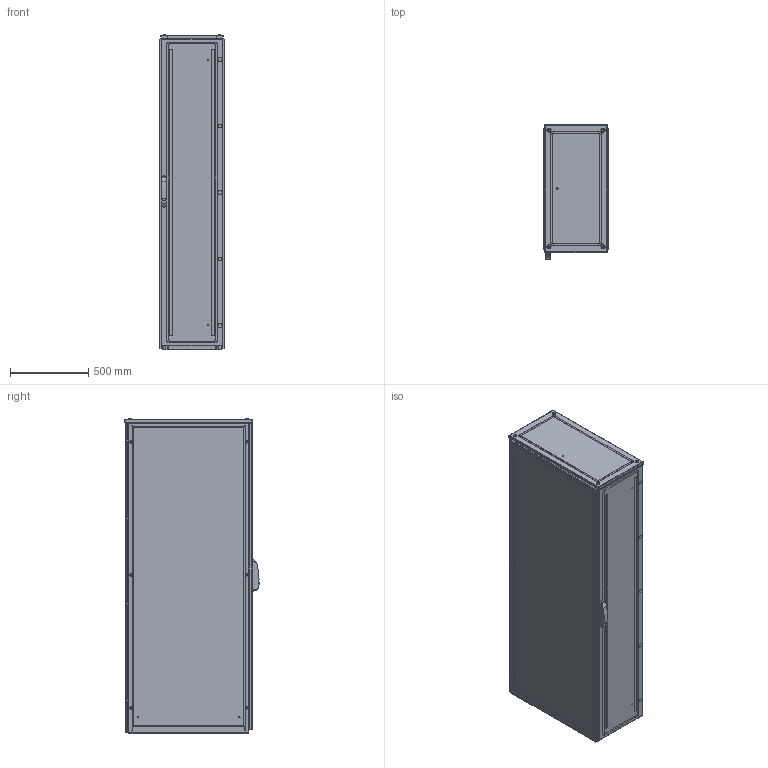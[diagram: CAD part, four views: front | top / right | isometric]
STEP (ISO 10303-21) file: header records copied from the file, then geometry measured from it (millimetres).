
FILE_DESCRIPTION(/* description */ ('STEP AP214'),/* implementation_level */ '2;1');
FILE_NAME(/* name */ 'ENUX042008PR-LOD350',/* time_stamp */ '2025-08-04T14:32:04+02:00',/* author */ ('License CC BY-ND 4.0'),/* organization */ ('CADENAS'),/* preprocessor_version */ 'ST-DEVELOPER v19.3',/* originating_system */ 'PARTsolutions',/* authorisation */ ' ');
FILE_SCHEMA (('INTEGRATED_CNC_SCHEMA','PROCESS_PLANNING_SCHEMA','AP242_MANAGED_MODEL_BASED_3D_ENGINEERING_MIM_LF { 1 0 10303 442 3 1 4 }','AUTOMOTIVE_DESIGN {1 0 10303 214 3 1 1}'));
Length unit declared in the file: millimetre
Products named in the file (10): ENUX042008PR-LOD350; ENUX042008PR-LOD350_CON; ENUX042008PR-LOD350_floor1; ENUX042008PR-LOD350_floor2; Screw M12x30 architecture 350; ENUX042008PR-LOD350_side; ENUX042008PR-LOD350_top; ENUX042008PR-LOD350_back_door; ENUX042008PR-LOD350_door; ENUX042008PR-LOD350_handle
Assembly tree (18 placements, depth 2):
  ENUX042008PR-LOD350
    ENUX042008PR-LOD350_CON
    ENUX042008PR-LOD350_floor1  x2
    ENUX042008PR-LOD350_floor2  x5
    Screw M12x30 architecture 350  x4
    ENUX042008PR-LOD350_side  x2
    ENUX042008PR-LOD350_top
    ENUX042008PR-LOD350_back_door
    ENUX042008PR-LOD350_door
    ENUX042008PR-LOD350_handle
Bounding box: 412 x 857 x 2014.1 mm (x, y, z)
Volume: 19615254.4 mm3; surface area: 16410221.4 mm2
Topology: 18 solids, 18 shells, 1786 faces, 4983 edges, 3244 vertices
Faces by surface type: plane 922, cylinder 699, cone 77, torus 72, sphere 16
Full cylindrical faces by diameter (mm): 4.5 x108, 6 x14, 6.8 x8, 9 x9, 12 x16, 13 x4, 18 x1, 21 x4
Entity records: 43863 total; most frequent: CARTESIAN_POINT 7615, DIRECTION 7593, ORIENTED_EDGE 7128, EDGE_CURVE 3564, AXIS2_PLACEMENT_3D 2704, VERTEX_POINT 2485, LINE 2185, VECTOR 2185
